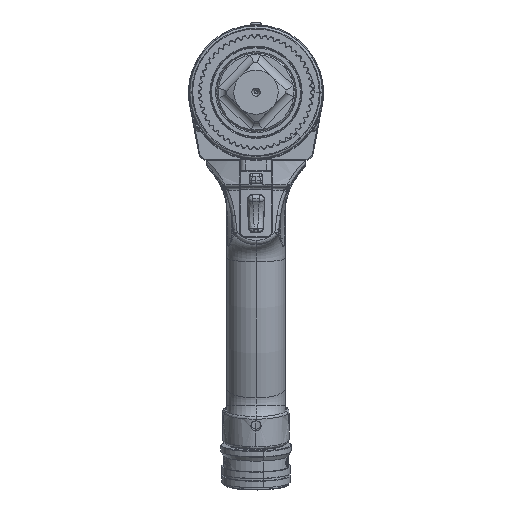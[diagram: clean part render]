
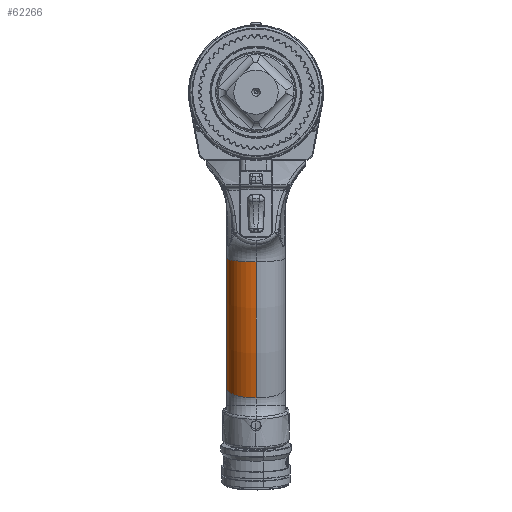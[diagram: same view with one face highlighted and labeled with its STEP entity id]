
A CAD part, top view. The second image highlights one B-rep face of the part: STEP entity #62266.
In plain terms, the highlighted toroidal (fillet/blend) face has major radius 363.555 mm and minor radius 16.662 mm.
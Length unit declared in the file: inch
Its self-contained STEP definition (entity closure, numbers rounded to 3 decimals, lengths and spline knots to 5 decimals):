
#1317 = DIRECTION ( 'NONE',  ( 0., -0.326, 0.945 ) ) ;
#4553 = AXIS2_PLACEMENT_3D ( 'NONE', #111730, #23967, #102152 ) ;
#7278 = DIRECTION ( 'NONE',  ( 1., 0., 0. ) ) ;
#9652 = CARTESIAN_POINT ( 'NONE',  ( 0., -6.90046, -1.45508 ) ) ;
#11995 = DIRECTION ( 'NONE',  ( -1., 0., 0. ) ) ;
#15463 = AXIS2_PLACEMENT_3D ( 'NONE', #64560, #7278, #25828 ) ;
#17799 = EDGE_CURVE ( 'NONE', #72428, #58697, #59420, .T. ) ;
#19864 = DIRECTION ( 'NONE',  ( 0., -0.993, -0.12 ) ) ;
#21482 = EDGE_CURVE ( 'NONE', #122097, #72428, #29468, .T. ) ;
#23967 = DIRECTION ( 'NONE',  ( -1., 0., 0. ) ) ;
#25828 = DIRECTION ( 'NONE',  ( 0., 0., -1. ) ) ;
#28702 = CIRCLE ( 'NONE', #85583, 14.96921 ) ;
#29468 = CIRCLE ( 'NONE', #100564, 0.656 ) ;
#30208 = CARTESIAN_POINT ( 'NONE',  ( -0.656, -6.68654, -2.07522 ) ) ;
#30476 = EDGE_LOOP ( 'NONE', ( #31303, #83027, #42634, #93907 ) ) ;
#31303 = ORIENTED_EDGE ( 'NONE', *, *, #62810, .T. ) ;
#40852 = DIRECTION ( 'NONE',  ( 0., -0.12, 0.993 ) ) ;
#41467 = DIRECTION ( 'NONE',  ( 0., -0.945, -0.326 ) ) ;
#42634 = ORIENTED_EDGE ( 'NONE', *, *, #21482, .F. ) ;
#43657 = FACE_OUTER_BOUND ( 'NONE', #30476, .T. ) ;
#44456 = EDGE_CURVE ( 'NONE', #122097, #96650, #28702, .T. ) ;
#51409 = DIRECTION ( 'NONE',  ( 0., 0., -1. ) ) ;
#56183 = AXIS2_PLACEMENT_3D ( 'NONE', #117176, #19864, #40852 ) ;
#57306 = CARTESIAN_POINT ( 'NONE',  ( -0.656, -3.74333, -1.39704 ) ) ;
#58208 = CIRCLE ( 'NONE', #56183, 0.656 ) ;
#58697 = VERTEX_POINT ( 'NONE', #57306 ) ;
#59420 = CIRCLE ( 'NONE', #4553, 14.31321 ) ;
#62266 = ADVANCED_FACE ( 'NONE', ( #43657 ), #70290, .T. ) ;
#62810 = EDGE_CURVE ( 'NONE', #96650, #58697, #58208, .T. ) ;
#64560 = CARTESIAN_POINT ( 'NONE',  ( 0., -2.019, -15.606 ) ) ;
#66677 = CARTESIAN_POINT ( 'NONE',  ( 0., -3.82235, -0.74582 ) ) ;
#70290 = TOROIDAL_SURFACE ( 'NONE', #15463, 14.31321, 0.656 ) ;
#71136 = CARTESIAN_POINT ( 'NONE',  ( 0., -2.019, -15.606 ) ) ;
#71293 = CARTESIAN_POINT ( 'NONE',  ( 0., -6.68654, -2.07522 ) ) ;
#72428 = VERTEX_POINT ( 'NONE', #30208 ) ;
#83027 = ORIENTED_EDGE ( 'NONE', *, *, #17799, .F. ) ;
#85583 = AXIS2_PLACEMENT_3D ( 'NONE', #71136, #11995, #51409 ) ;
#93907 = ORIENTED_EDGE ( 'NONE', *, *, #44456, .T. ) ;
#96650 = VERTEX_POINT ( 'NONE', #66677 ) ;
#100564 = AXIS2_PLACEMENT_3D ( 'NONE', #71293, #41467, #1317 ) ;
#102152 = DIRECTION ( 'NONE',  ( 0., 0., -1. ) ) ;
#111730 = CARTESIAN_POINT ( 'NONE',  ( -0.656, -2.019, -15.606 ) ) ;
#117176 = CARTESIAN_POINT ( 'NONE',  ( 0., -3.74333, -1.39704 ) ) ;
#122097 = VERTEX_POINT ( 'NONE', #9652 ) ;
